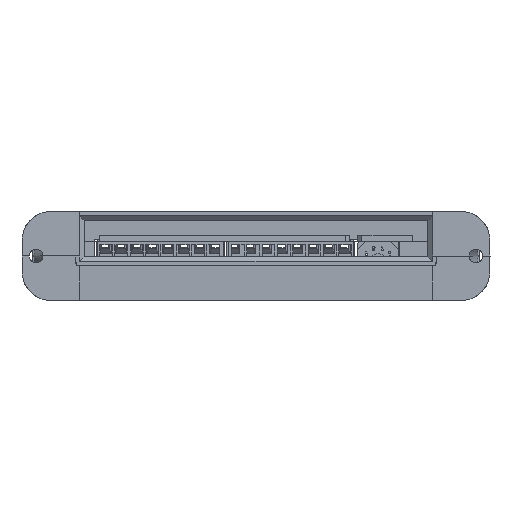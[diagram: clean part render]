
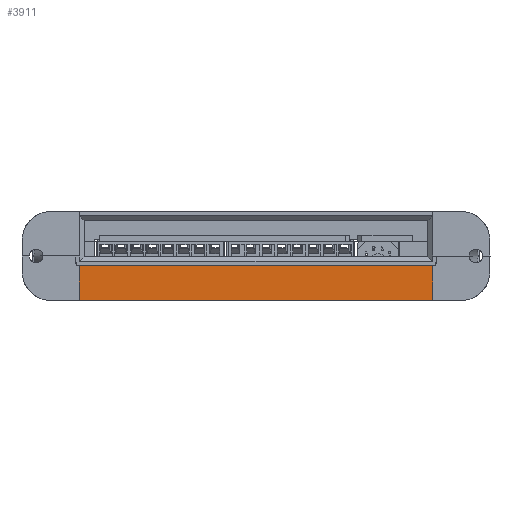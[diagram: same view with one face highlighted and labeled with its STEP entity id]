
A CAD part, left-side view. The second image highlights one B-rep face of the part: STEP entity #3911.
In plain terms, the highlighted planar face has unit normal (-1, 0, -0.018).
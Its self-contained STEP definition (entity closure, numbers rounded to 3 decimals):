
#615 = VECTOR ( 'NONE', #32330, 1000. ) ;
#3911 = ADVANCED_FACE ( 'NONE', ( #47815 ), #20408, .T. ) ;
#8278 = CARTESIAN_POINT ( 'NONE',  ( -4.616, 18.8, 11. ) ) ;
#9222 = CARTESIAN_POINT ( 'NONE',  ( -4.575, -80., 8.6 ) ) ;
#12353 = ORIENTED_EDGE ( 'NONE', *, *, #16127, .T. ) ;
#13943 = DIRECTION ( 'NONE',  ( 0., 1., 0. ) ) ;
#14219 = EDGE_CURVE ( 'NONE', #53002, #40424, #28733, .T. ) ;
#15216 = LINE ( 'NONE', #8278, #615 ) ;
#15494 = VECTOR ( 'NONE', #16613, 1000. ) ;
#16127 = EDGE_CURVE ( 'NONE', #31812, #23008, #17592, .T. ) ;
#16348 = AXIS2_PLACEMENT_3D ( 'NONE', #50241, #20838, #55153 ) ;
#16613 = DIRECTION ( 'NONE',  ( -0.017, 0., 1. ) ) ;
#17592 = LINE ( 'NONE', #43541, #22203 ) ;
#18855 = DIRECTION ( 'NONE',  ( 0., -1., 0. ) ) ;
#20408 = PLANE ( 'NONE',  #16348 ) ;
#20838 = DIRECTION ( 'NONE',  ( -1., 0., -0.017 ) ) ;
#22203 = VECTOR ( 'NONE', #18855, 1000. ) ;
#23008 = VERTEX_POINT ( 'NONE', #25571 ) ;
#23693 = ORIENTED_EDGE ( 'NONE', *, *, #14219, .T. ) ;
#25571 = CARTESIAN_POINT ( 'NONE',  ( -4.424, -68.8, 0. ) ) ;
#28550 = LINE ( 'NONE', #55633, #15494 ) ;
#28733 = LINE ( 'NONE', #9222, #40226 ) ;
#28916 = EDGE_CURVE ( 'NONE', #23008, #53002, #28550, .T. ) ;
#31812 = VERTEX_POINT ( 'NONE', #61637 ) ;
#32330 = DIRECTION ( 'NONE',  ( -0.017, 0., 1. ) ) ;
#38245 = ORIENTED_EDGE ( 'NONE', *, *, #28916, .T. ) ;
#39823 = CARTESIAN_POINT ( 'NONE',  ( -4.575, -68.8, 8.6 ) ) ;
#40226 = VECTOR ( 'NONE', #13943, 1000. ) ;
#40424 = VERTEX_POINT ( 'NONE', #59106 ) ;
#43541 = CARTESIAN_POINT ( 'NONE',  ( -4.424, 30., 0. ) ) ;
#45350 = EDGE_CURVE ( 'NONE', #31812, #40424, #15216, .T. ) ;
#47815 = FACE_OUTER_BOUND ( 'NONE', #53815, .T. ) ;
#47912 = ORIENTED_EDGE ( 'NONE', *, *, #45350, .F. ) ;
#50241 = CARTESIAN_POINT ( 'NONE',  ( -4.616, -80., 11. ) ) ;
#53002 = VERTEX_POINT ( 'NONE', #39823 ) ;
#53815 = EDGE_LOOP ( 'NONE', ( #12353, #38245, #23693, #47912 ) ) ;
#55153 = DIRECTION ( 'NONE',  ( 0.017, 0., -1. ) ) ;
#55633 = CARTESIAN_POINT ( 'NONE',  ( -4.616, -68.8, 11. ) ) ;
#59106 = CARTESIAN_POINT ( 'NONE',  ( -4.575, 18.8, 8.6 ) ) ;
#61637 = CARTESIAN_POINT ( 'NONE',  ( -4.424, 18.8, 0. ) ) ;
